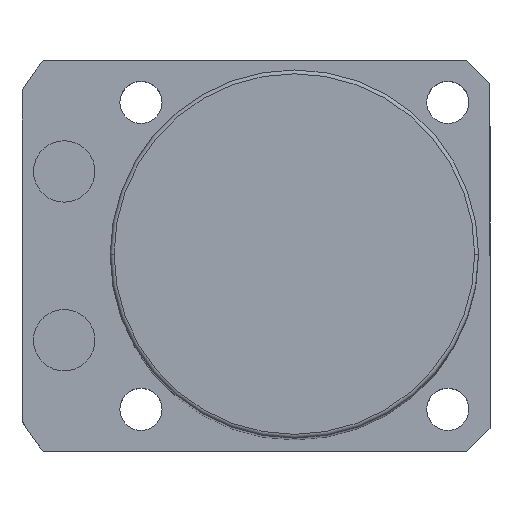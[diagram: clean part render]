
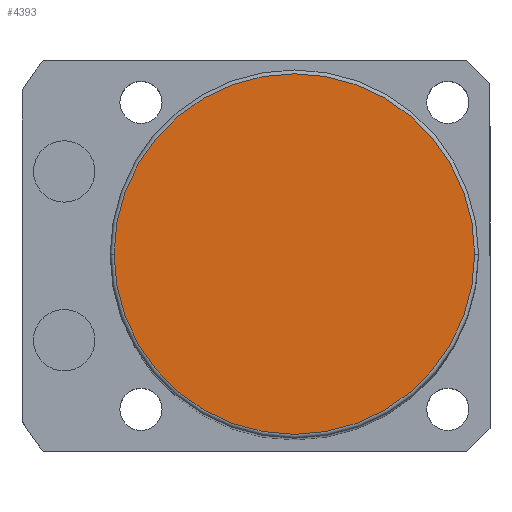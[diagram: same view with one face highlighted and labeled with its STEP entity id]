
A CAD part, top view. The second image highlights one B-rep face of the part: STEP entity #4393.
In plain terms, the highlighted planar face has unit normal (0, 0, 1).
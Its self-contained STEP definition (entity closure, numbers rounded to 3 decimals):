
#45 = CARTESIAN_POINT ( 'NONE',  ( 0., 0., 146. ) ) ;
#430 = PLANE ( 'NONE',  #6506 ) ;
#448 = CARTESIAN_POINT ( 'NONE',  ( -23.5, 0., 146. ) ) ;
#555 = DIRECTION ( 'NONE',  ( 1., 0., 0. ) ) ;
#860 = DIRECTION ( 'NONE',  ( 0., 0., 1. ) ) ;
#1133 = VERTEX_POINT ( 'NONE', #4387 ) ;
#1146 = CIRCLE ( 'NONE', #2206, 23.5 ) ;
#1283 = EDGE_CURVE ( 'NONE', #1133, #4188, #6508, .T. ) ;
#1375 = DIRECTION ( 'NONE',  ( 1., 0., 0. ) ) ;
#1532 = DIRECTION ( 'NONE',  ( 1., 0., 0. ) ) ;
#1573 = DIRECTION ( 'NONE',  ( 0., 0., 1. ) ) ;
#2103 = ORIENTED_EDGE ( 'NONE', *, *, #6537, .T. ) ;
#2206 = AXIS2_PLACEMENT_3D ( 'NONE', #3381, #860, #1375 ) ;
#3381 = CARTESIAN_POINT ( 'NONE',  ( 0., 0., 146. ) ) ;
#3906 = ORIENTED_EDGE ( 'NONE', *, *, #1283, .T. ) ;
#4188 = VERTEX_POINT ( 'NONE', #448 ) ;
#4387 = CARTESIAN_POINT ( 'NONE',  ( 23.5, 0., 146. ) ) ;
#4393 = ADVANCED_FACE ( 'NONE', ( #5527 ), #430, .T. ) ;
#4586 = DIRECTION ( 'NONE',  ( 0., 0., 1. ) ) ;
#5020 = AXIS2_PLACEMENT_3D ( 'NONE', #5023, #4586, #1532 ) ;
#5023 = CARTESIAN_POINT ( 'NONE',  ( 0., 0., 146. ) ) ;
#5155 = EDGE_LOOP ( 'NONE', ( #3906, #2103 ) ) ;
#5527 = FACE_OUTER_BOUND ( 'NONE', #5155, .T. ) ;
#6506 = AXIS2_PLACEMENT_3D ( 'NONE', #45, #1573, #555 ) ;
#6508 = CIRCLE ( 'NONE', #5020, 23.5 ) ;
#6537 = EDGE_CURVE ( 'NONE', #4188, #1133, #1146, .T. ) ;
